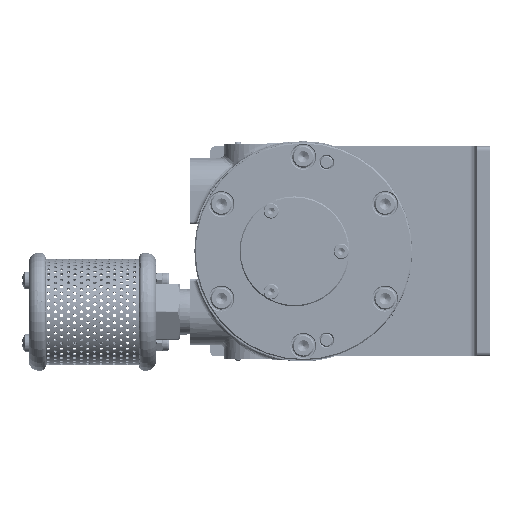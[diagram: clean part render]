
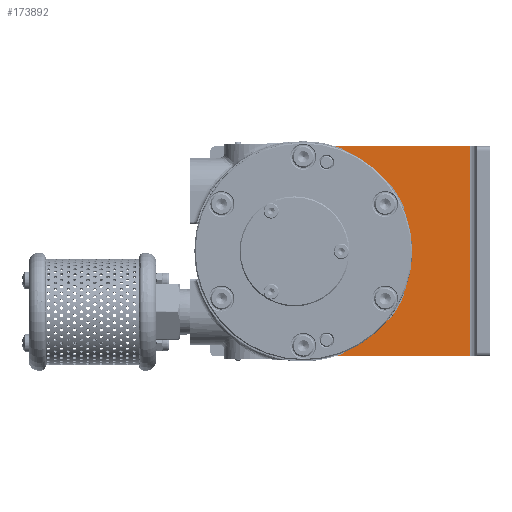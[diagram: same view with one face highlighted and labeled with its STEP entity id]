
A CAD part, left-side view. The second image highlights one B-rep face of the part: STEP entity #173892.
In plain terms, the highlighted planar face has unit normal (-1, 0, 0).
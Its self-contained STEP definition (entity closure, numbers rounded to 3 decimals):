
#9447 = EDGE_LOOP ( 'NONE', ( #38278, #22123, #193106, #111765 ) ) ;
#13247 = DIRECTION ( 'NONE',  ( 0., -1., 0. ) ) ;
#15355 = DIRECTION ( 'NONE',  ( -1., 0., 0. ) ) ;
#16340 = VERTEX_POINT ( 'NONE', #207696 ) ;
#22123 = ORIENTED_EDGE ( 'NONE', *, *, #200491, .F. ) ;
#25064 = DIRECTION ( 'NONE',  ( 0., 0., -1. ) ) ;
#28515 = EDGE_CURVE ( 'NONE', #65989, #61378, #90799, .T. ) ;
#31232 = EDGE_CURVE ( 'NONE', #85518, #65989, #205605, .T. ) ;
#36342 = CARTESIAN_POINT ( 'NONE',  ( 38.3, -10.997, -47.75 ) ) ;
#38278 = ORIENTED_EDGE ( 'NONE', *, *, #31232, .F. ) ;
#42696 = DIRECTION ( 'NONE',  ( 0., 0., -1. ) ) ;
#56000 = PLANE ( 'NONE',  #145264 ) ;
#58814 = CARTESIAN_POINT ( 'NONE',  ( 38.3, -10.997, 47.75 ) ) ;
#61378 = VERTEX_POINT ( 'NONE', #163169 ) ;
#65989 = VERTEX_POINT ( 'NONE', #58814 ) ;
#72831 = DIRECTION ( 'NONE',  ( 1., 0., 0. ) ) ;
#78617 = CARTESIAN_POINT ( 'NONE',  ( 38.3, -84.93, 47.75 ) ) ;
#81393 = CARTESIAN_POINT ( 'NONE',  ( 38.3, 0., 0. ) ) ;
#82329 = EDGE_CURVE ( 'NONE', #61378, #16340, #140044, .T. ) ;
#85518 = VERTEX_POINT ( 'NONE', #36342 ) ;
#90799 = LINE ( 'NONE', #78617, #191419 ) ;
#95927 = DIRECTION ( 'NONE',  ( 0., 1., 0. ) ) ;
#111765 = ORIENTED_EDGE ( 'NONE', *, *, #28515, .F. ) ;
#123498 = CARTESIAN_POINT ( 'NONE',  ( 38.3, -84.93, -47.75 ) ) ;
#123546 = CARTESIAN_POINT ( 'NONE',  ( 38.3, -75.93, -47.75 ) ) ;
#140044 = LINE ( 'NONE', #123546, #187739 ) ;
#143469 = FACE_OUTER_BOUND ( 'NONE', #9447, .T. ) ;
#145264 = AXIS2_PLACEMENT_3D ( 'NONE', #123498, #72831, #25064 ) ;
#152263 = LINE ( 'NONE', #194221, #182227 ) ;
#163169 = CARTESIAN_POINT ( 'NONE',  ( 38.3, -75.93, 47.75 ) ) ;
#172506 = AXIS2_PLACEMENT_3D ( 'NONE', #81393, #15355, #193849 ) ;
#173892 = ADVANCED_FACE ( 'NONE', ( #143469 ), #56000, .F. ) ;
#182227 = VECTOR ( 'NONE', #95927, 1000. ) ;
#187739 = VECTOR ( 'NONE', #42696, 1000. ) ;
#191419 = VECTOR ( 'NONE', #13247, 1000. ) ;
#193106 = ORIENTED_EDGE ( 'NONE', *, *, #82329, .F. ) ;
#193849 = DIRECTION ( 'NONE',  ( 0., 0., 1. ) ) ;
#194221 = CARTESIAN_POINT ( 'NONE',  ( 38.3, -84.93, -47.75 ) ) ;
#200491 = EDGE_CURVE ( 'NONE', #16340, #85518, #152263, .T. ) ;
#205605 = CIRCLE ( 'NONE', #172506, 49. ) ;
#207696 = CARTESIAN_POINT ( 'NONE',  ( 38.3, -75.93, -47.75 ) ) ;
